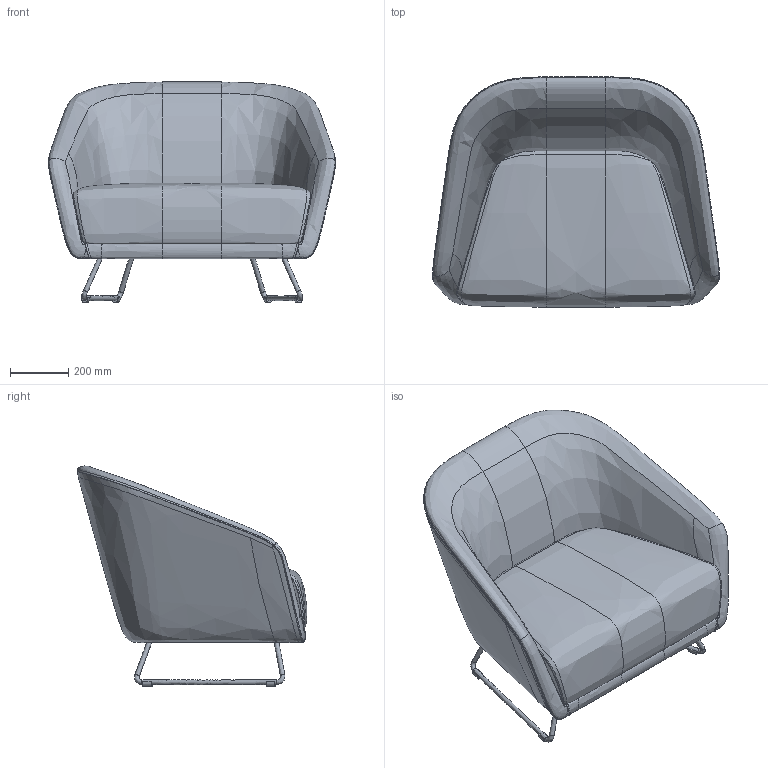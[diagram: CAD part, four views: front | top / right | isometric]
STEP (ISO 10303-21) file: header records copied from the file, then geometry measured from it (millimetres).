
FILE_DESCRIPTION(/* description */ (''),/* implementation_level */ '2;1');
FILE_NAME(/* name */ 'Organix OX5262',/* time_stamp */ '2020-12-16T09:28:06+01:00',/* author */ (''),/* organization */ (''),/* preprocessor_version */ 'ST-DEVELOPER v16.5',/* originating_system */ '',/* authorisation */ '');
FILE_SCHEMA (('AUTOMOTIVE_DESIGN'));
Length unit declared in the file: millimetre
Products named in the file (1): Document
Bounding box: 988.47 x 792.22 x 758.41 mm (x, y, z)
Volume: 324671 mm3; surface area: 3218244.9 mm2
Topology: 6 solids, 12 shells, 113 faces, 295 edges, 194 vertices
Faces by surface type: bspline 77, plane 36
Entity records: 12518 total; most frequent: CARTESIAN_POINT 10772, ORIENTED_EDGE 504, EDGE_CURVE 292, VERTEX_POINT 188, B_SPLINE_CURVE_WITH_KNOTS 177, ADVANCED_FACE 113, FACE_OUTER_BOUND 113, EDGE_LOOP 113
